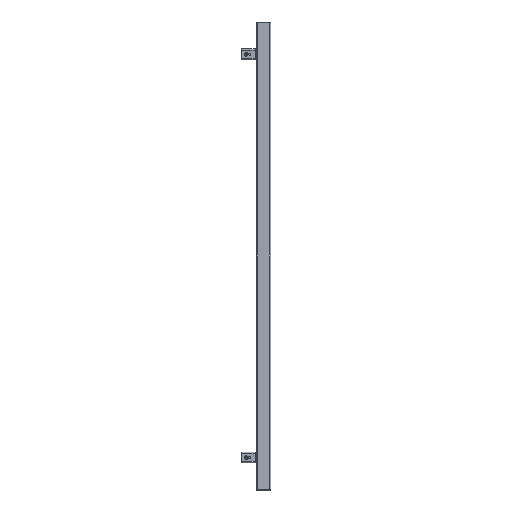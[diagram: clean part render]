
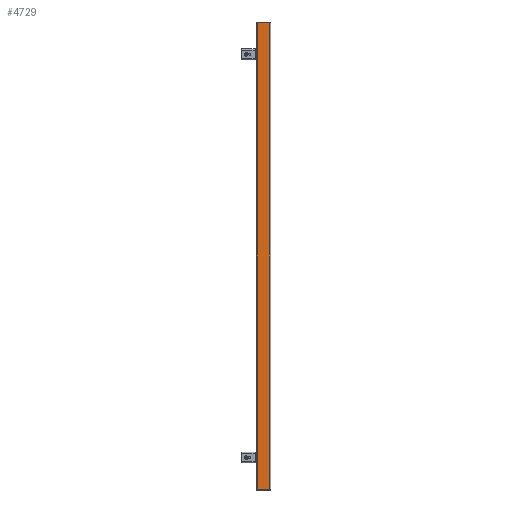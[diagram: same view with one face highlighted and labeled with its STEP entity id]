
A CAD part, left-side view. The second image highlights one B-rep face of the part: STEP entity #4729.
In plain terms, the highlighted planar face has unit normal (-1, 0, 0).
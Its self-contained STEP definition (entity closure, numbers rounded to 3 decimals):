
#4380=CARTESIAN_POINT('',(-190.0,-17.,1.5));
#4381=VERTEX_POINT('',#4380);
#4532=CARTESIAN_POINT('',(-190.0,17.,1.5));
#4533=VERTEX_POINT('',#4532);
#4550=CARTESIAN_POINT('',(-190.0,-17.,1.5));
#4551=DIRECTION('',(0.0,1.0,0.0));
#4552=VECTOR('',#4551,34.0);
#4553=LINE('',#4550,#4552);
#4554=EDGE_CURVE('',#4381,#4533,#4553,.T.);
#4699=CARTESIAN_POINT('',(-190.0,-17.,0.0));
#4700=DIRECTION('',(-1.0,0.0,0.0));
#4701=DIRECTION('',(0.0,0.0,1.0));
#4702=AXIS2_PLACEMENT_3D('',#4699,#4700,#4701);
#4703=PLANE('',#4702);
#4704=ORIENTED_EDGE('',*,*,#4554,.F.);
#4705=CARTESIAN_POINT('',(-190.0,-17.,1298.5));
#4706=VERTEX_POINT('',#4705);
#4707=CARTESIAN_POINT('',(-190.0,-17.,1.5));
#4708=DIRECTION('',(0.0,0.0,1.0));
#4709=VECTOR('',#4708,1297.0);
#4710=LINE('',#4707,#4709);
#4711=EDGE_CURVE('',#4381,#4706,#4710,.T.);
#4712=ORIENTED_EDGE('',*,*,#4711,.T.);
#4713=CARTESIAN_POINT('',(-190.0,17.,1298.5));
#4714=VERTEX_POINT('',#4713);
#4715=CARTESIAN_POINT('',(-190.0,17.,1298.5));
#4716=DIRECTION('',(0.0,-1.0,0.0));
#4717=VECTOR('',#4716,34.0);
#4718=LINE('',#4715,#4717);
#4719=EDGE_CURVE('',#4714,#4706,#4718,.T.);
#4720=ORIENTED_EDGE('',*,*,#4719,.F.);
#4721=CARTESIAN_POINT('',(-190.0,17.,1.5));
#4722=DIRECTION('',(0.0,0.0,1.0));
#4723=VECTOR('',#4722,1297.0);
#4724=LINE('',#4721,#4723);
#4725=EDGE_CURVE('',#4533,#4714,#4724,.T.);
#4726=ORIENTED_EDGE('',*,*,#4725,.F.);
#4727=EDGE_LOOP('',(#4704,#4712,#4720,#4726));
#4728=FACE_OUTER_BOUND('',#4727,.T.);
#4729=ADVANCED_FACE('',(#4728),#4703,.T.);
